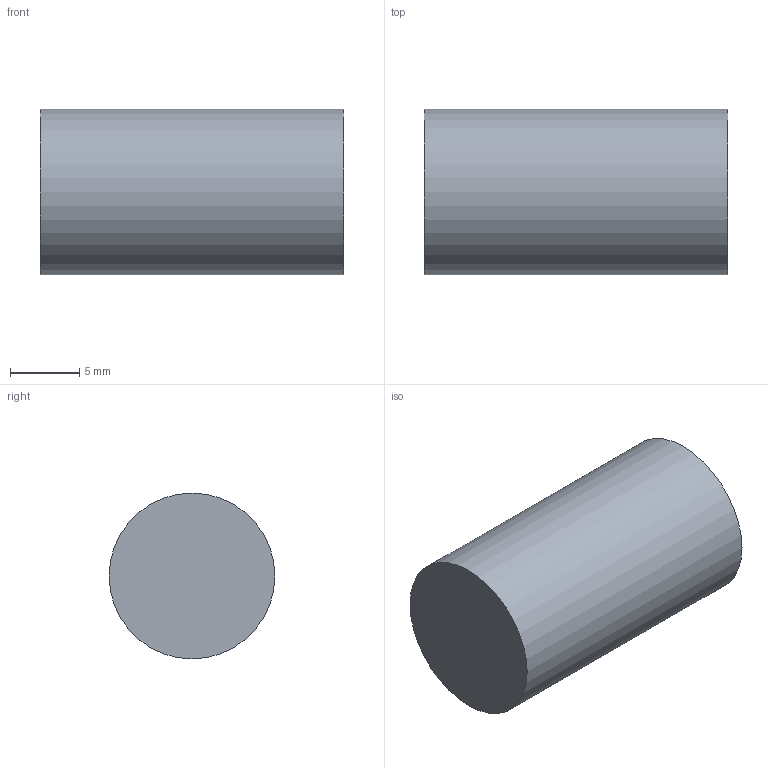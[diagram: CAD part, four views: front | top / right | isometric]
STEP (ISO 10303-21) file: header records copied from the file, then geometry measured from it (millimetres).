
FILE_DESCRIPTION(('Open CASCADE Model'),'2;1');
FILE_NAME('Open CASCADE Shape Model','2026-11-23T20:25:51',('Author'),( 'Open CASCADE'),'Open CASCADE STEP processor 7.9','Open CASCADE 7.9' ,'Unknown');
FILE_SCHEMA(('AUTOMOTIVE_DESIGN { 1 0 10303 214 1 1 1 1 }'));
Length unit declared in the file: millimetre
Products named in the file (1): Open CASCADE STEP translator 7.9 12
Bounding box: 22 x 12 x 12 mm (x, y, z)
Volume: 2488.1 mm3; surface area: 1055.6 mm2
Topology: 1 solids, 1 shells, 3 faces, 3 edges, 2 vertices
Faces by surface type: plane 2, cylinder 1
Full cylindrical faces by diameter (mm): 12 x1
Entity records: 108 total; most frequent: DIRECTION 19, CARTESIAN_POINT 15, AXIS2_PLACEMENT_3D 6, ORIENTED_EDGE 6, PCURVE 6, DEFINITIONAL_REPRESENTATION 6, LINE 5, VECTOR 5
